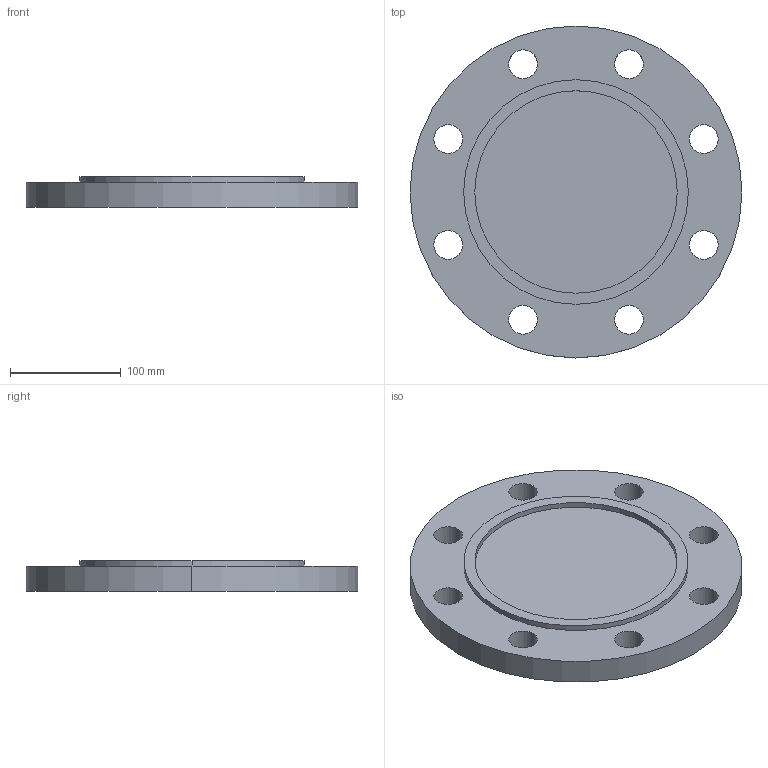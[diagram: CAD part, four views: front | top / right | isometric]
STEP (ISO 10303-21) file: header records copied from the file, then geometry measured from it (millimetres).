
FILE_DESCRIPTION (( 'STEP AP214' ), '1' );
FILE_NAME ('PN40 DN150 Type 05 - Type C Face.STEP', '2019-01-05T00:21:30', ( '' ), ( '' ), 'SwSTEP 2.0', 'SolidWorks 2019', '' );
FILE_SCHEMA (( 'AUTOMOTIVE_DESIGN' ));
Length unit declared in the file: millimetre
Products named in the file (1): PN40 DN150 Type 05 - Type C Face
Bounding box: 300 x 300 x 28 mm (x, y, z)
Volume: 1558399.6 mm3; surface area: 175646.4 mm2
Topology: 1 solids, 1 shells, 26 faces, 66 edges, 44 vertices
Faces by surface type: cylinder 22, plane 4
Entity records: 880 total; most frequent: DIRECTION 164, CARTESIAN_POINT 137, ORIENTED_EDGE 132, AXIS2_PLACEMENT_3D 71, EDGE_CURVE 66, CIRCLE 44, VERTEX_POINT 44, EDGE_LOOP 44
